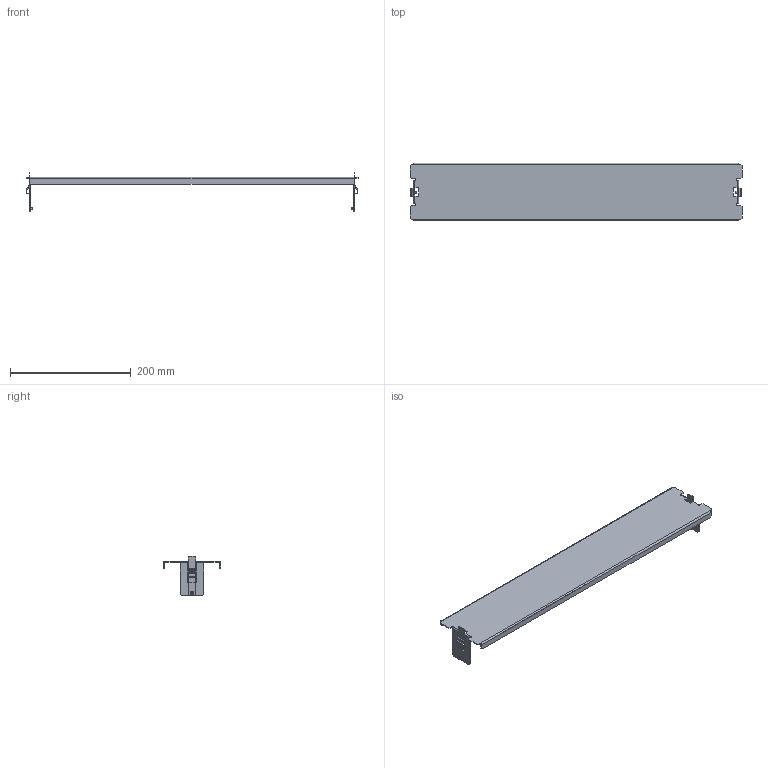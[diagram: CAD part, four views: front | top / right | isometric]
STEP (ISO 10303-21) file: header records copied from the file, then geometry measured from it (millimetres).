
FILE_DESCRIPTION (( 'STEP AP203' ), '1' );
FILE_NAME ('_102-5554 Rev4 20170221.STEP', '2017-02-21T18:38:52', ( '' ), ( '' ), 'SwSTEP 2.0', 'SolidWorks 2016', '' );
FILE_SCHEMA (( 'CONFIG_CONTROL_DESIGN' ));
Length unit declared in the file: inch
Products named in the file (4): MS20426-AD4-3; 102-5554-003 Rev2_-1; _102-5554 Rev4 20170221; 102-5554-001 Rev3_-1
Assembly tree (5 placements, depth 2):
  _102-5554 Rev4 20170221
    102-5554-001 Rev3_-1
    MS20426-AD4-3  x2
    102-5554-003 Rev2_-1  x2
Bounding box: 549.91 x 95.48 x 66.04 mm (x, y, z)
Volume: 93985.9 mm3; surface area: 136756.3 mm2
Topology: 5 solids, 5 shells, 246 faces, 564 edges, 324 vertices
Faces by surface type: plane 166, cylinder 64, cone 8, bspline 4, torus 4
Entity records: 5631 total; most frequent: CARTESIAN_POINT 1145, DIRECTION 846, ORIENTED_EDGE 824, EDGE_CURVE 412, LINE 302, VECTOR 302, AXIS2_PLACEMENT_3D 272, VERTEX_POINT 240
